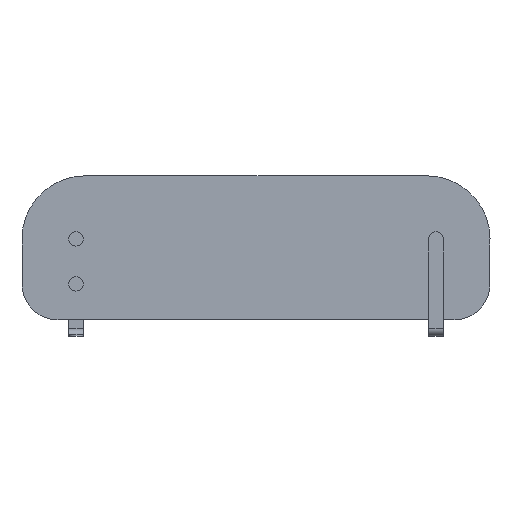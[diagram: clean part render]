
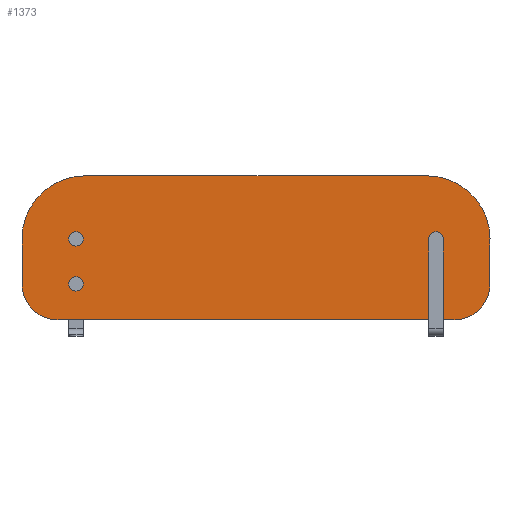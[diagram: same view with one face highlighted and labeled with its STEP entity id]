
A CAD part, top view. The second image highlights one B-rep face of the part: STEP entity #1373.
In plain terms, the highlighted planar face has unit normal (0, 0, 1).
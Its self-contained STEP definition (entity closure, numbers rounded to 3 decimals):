
#38 = ORIENTED_EDGE ( 'NONE', *, *, #4000, .T. ) ;
#95 = CARTESIAN_POINT ( 'NONE',  ( 49694.773, 54564.291, 18. ) ) ;
#157 = FACE_BOUND ( 'NONE', #3588, .T. ) ;
#164 = CARTESIAN_POINT ( 'NONE',  ( 48544.773, 0., 18. ) ) ;
#198 = CARTESIAN_POINT ( 'NONE',  ( 49684.023, 54564.291, 18. ) ) ;
#260 = VERTEX_POINT ( 'NONE', #4173 ) ;
#311 = CARTESIAN_POINT ( 'NONE',  ( 48694.773, 54564.291, 18. ) ) ;
#403 = CARTESIAN_POINT ( 'NONE',  ( 49705.523, 54564.291, 18. ) ) ;
#500 = CARTESIAN_POINT ( 'NONE',  ( 49844.773, 54564.291, 18. ) ) ;
#531 = EDGE_CURVE ( 'NONE', #2948, #3968, #1223, .T. ) ;
#554 = CIRCLE ( 'NONE', #1399, 11. ) ;
#564 = EDGE_CURVE ( 'NONE', #3968, #2948, #2939, .T. ) ;
#596 = VERTEX_POINT ( 'NONE', #2949 ) ;
#600 = DIRECTION ( 'NONE',  ( 0., 0., 1. ) ) ;
#719 = EDGE_CURVE ( 'NONE', #2923, #4114, #2624, .T. ) ;
#727 = DIRECTION ( 'NONE',  ( 1., 0., 0. ) ) ;
#730 = AXIS2_PLACEMENT_3D ( 'NONE', #3254, #4808, #1296 ) ;
#744 = DIRECTION ( 'NONE',  ( 1., 0., 0. ) ) ;
#746 = EDGE_CURVE ( 'NONE', #3094, #3432, #994, .T. ) ;
#750 = DIRECTION ( 'NONE',  ( 0., 0., 1. ) ) ;
#760 = ORIENTED_EDGE ( 'NONE', *, *, #2201, .F. ) ;
#837 = CARTESIAN_POINT ( 'NONE',  ( 49684.023, 54439.291, 18. ) ) ;
#876 = LINE ( 'NONE', #3996, #1403 ) ;
#889 = CARTESIAN_POINT ( 'NONE',  ( 49694.773, 54439.291, 18. ) ) ;
#906 = DIRECTION ( 'NONE',  ( 0., 0., 1. ) ) ;
#950 = FACE_BOUND ( 'NONE', #2319, .T. ) ;
#994 = LINE ( 'NONE', #2673, #2246 ) ;
#1007 = DIRECTION ( 'NONE',  ( 0., -1., 0. ) ) ;
#1022 = CARTESIAN_POINT ( 'NONE',  ( 49669.773, 54564.291, 18. ) ) ;
#1115 = CARTESIAN_POINT ( 'NONE',  ( 49744.773, 54439.291, 18. ) ) ;
#1120 = EDGE_CURVE ( 'NONE', #2541, #1765, #876, .T. ) ;
#1121 = ORIENTED_EDGE ( 'NONE', *, *, #746, .F. ) ;
#1172 = AXIS2_PLACEMENT_3D ( 'NONE', #1115, #2692, #4612 ) ;
#1181 = VERTEX_POINT ( 'NONE', #403 ) ;
#1195 = ORIENTED_EDGE ( 'NONE', *, *, #564, .F. ) ;
#1223 = CIRCLE ( 'NONE', #2456, 10.75 ) ;
#1247 = AXIS2_PLACEMENT_3D ( 'NONE', #4888, #3385, #2950 ) ;
#1274 = AXIS2_PLACEMENT_3D ( 'NONE', #1352, #2292, #3434 ) ;
#1277 = FACE_BOUND ( 'NONE', #4590, .T. ) ;
#1296 = DIRECTION ( 'NONE',  ( 1., 0., 0. ) ) ;
#1322 = ORIENTED_EDGE ( 'NONE', *, *, #3014, .F. ) ;
#1352 = CARTESIAN_POINT ( 'NONE',  ( 49694.773, 54564.291, 18. ) ) ;
#1373 = ADVANCED_FACE ( 'NONE', ( #950, #4459, #157, #1277, #2085 ), #2851, .T. ) ;
#1399 = AXIS2_PLACEMENT_3D ( 'NONE', #311, #600, #4895 ) ;
#1403 = VECTOR ( 'NONE', #4323, 1000. ) ;
#1471 = DIRECTION ( 'NONE',  ( 1., 0., 0. ) ) ;
#1501 = CIRCLE ( 'NONE', #4370, 10.75 ) ;
#1525 = AXIS2_PLACEMENT_3D ( 'NONE', #3424, #4552, #1471 ) ;
#1570 = EDGE_CURVE ( 'NONE', #4431, #2489, #3288, .T. ) ;
#1589 = VERTEX_POINT ( 'NONE', #4902 ) ;
#1653 = CIRCLE ( 'NONE', #4279, 100. ) ;
#1656 = AXIS2_PLACEMENT_3D ( 'NONE', #4839, #4791, #4411 ) ;
#1743 = DIRECTION ( 'NONE',  ( 0., 0., 1. ) ) ;
#1765 = VERTEX_POINT ( 'NONE', #4618 ) ;
#1802 = ORIENTED_EDGE ( 'NONE', *, *, #531, .F. ) ;
#1877 = CARTESIAN_POINT ( 'NONE',  ( 49705.523, 54439.291, 18. ) ) ;
#1881 = EDGE_CURVE ( 'NONE', #2185, #1589, #1501, .T. ) ;
#1916 = ORIENTED_EDGE ( 'NONE', *, *, #2239, .F. ) ;
#2054 = CARTESIAN_POINT ( 'NONE',  ( 49744.773, 54339.291, 18. ) ) ;
#2067 = VECTOR ( 'NONE', #3057, 1000. ) ;
#2085 = FACE_OUTER_BOUND ( 'NONE', #4860, .T. ) ;
#2185 = VERTEX_POINT ( 'NONE', #2255 ) ;
#2186 = DIRECTION ( 'NONE',  ( 0., -1., 0. ) ) ;
#2194 = CARTESIAN_POINT ( 'NONE',  ( 48644.773, 54339.291, 18. ) ) ;
#2201 = EDGE_CURVE ( 'NONE', #1589, #2185, #2844, .T. ) ;
#2239 = EDGE_CURVE ( 'NONE', #1181, #4717, #2361, .T. ) ;
#2246 = VECTOR ( 'NONE', #2186, 1000. ) ;
#2255 = CARTESIAN_POINT ( 'NONE',  ( 48684.023, 54439.291, 18. ) ) ;
#2292 = DIRECTION ( 'NONE',  ( 0., 0., 1. ) ) ;
#2319 = EDGE_LOOP ( 'NONE', ( #1802, #1195 ) ) ;
#2356 = EDGE_CURVE ( 'NONE', #260, #596, #554, .T. ) ;
#2361 = CIRCLE ( 'NONE', #1274, 10.75 ) ;
#2389 = CARTESIAN_POINT ( 'NONE',  ( 48719.773, 54739.291, 18. ) ) ;
#2448 = ORIENTED_EDGE ( 'NONE', *, *, #4549, .F. ) ;
#2456 = AXIS2_PLACEMENT_3D ( 'NONE', #889, #1743, #4452 ) ;
#2489 = VERTEX_POINT ( 'NONE', #2820 ) ;
#2541 = VERTEX_POINT ( 'NONE', #2389 ) ;
#2571 = ORIENTED_EDGE ( 'NONE', *, *, #4395, .T. ) ;
#2597 = DIRECTION ( 'NONE',  ( 0., 0., 1. ) ) ;
#2624 = LINE ( 'NONE', #3384, #2067 ) ;
#2660 = AXIS2_PLACEMENT_3D ( 'NONE', #95, #2839, #4777 ) ;
#2673 = CARTESIAN_POINT ( 'NONE',  ( 49844.773, 0., 18. ) ) ;
#2692 = DIRECTION ( 'NONE',  ( 0., 0., 1. ) ) ;
#2820 = CARTESIAN_POINT ( 'NONE',  ( 48544.773, 54439.291, 18. ) ) ;
#2839 = DIRECTION ( 'NONE',  ( 0., 0., 1. ) ) ;
#2844 = CIRCLE ( 'NONE', #1525, 10.75 ) ;
#2851 = PLANE ( 'NONE',  #1656 ) ;
#2923 = VERTEX_POINT ( 'NONE', #2194 ) ;
#2939 = CIRCLE ( 'NONE', #730, 10.75 ) ;
#2948 = VERTEX_POINT ( 'NONE', #837 ) ;
#2949 = CARTESIAN_POINT ( 'NONE',  ( 48683.773, 54564.291, 18. ) ) ;
#2950 = DIRECTION ( 'NONE',  ( 1., 0., 0. ) ) ;
#2954 = ORIENTED_EDGE ( 'NONE', *, *, #4020, .T. ) ;
#3014 = EDGE_CURVE ( 'NONE', #596, #260, #4513, .T. ) ;
#3037 = CARTESIAN_POINT ( 'NONE',  ( 48644.773, 54439.291, 18. ) ) ;
#3057 = DIRECTION ( 'NONE',  ( 1., 0., 0. ) ) ;
#3060 = ORIENTED_EDGE ( 'NONE', *, *, #3739, .T. ) ;
#3081 = CARTESIAN_POINT ( 'NONE',  ( 48694.773, 54439.291, 18. ) ) ;
#3094 = VERTEX_POINT ( 'NONE', #500 ) ;
#3199 = CARTESIAN_POINT ( 'NONE',  ( 48694.773, 54564.291, 18. ) ) ;
#3254 = CARTESIAN_POINT ( 'NONE',  ( 49694.773, 54439.291, 18. ) ) ;
#3272 = EDGE_LOOP ( 'NONE', ( #2448, #1916 ) ) ;
#3288 = LINE ( 'NONE', #164, #4426 ) ;
#3384 = CARTESIAN_POINT ( 'NONE',  ( 0., 54339.291, 18. ) ) ;
#3385 = DIRECTION ( 'NONE',  ( 0., 0., 1. ) ) ;
#3390 = CIRCLE ( 'NONE', #1172, 100. ) ;
#3424 = CARTESIAN_POINT ( 'NONE',  ( 48694.773, 54439.291, 18. ) ) ;
#3432 = VERTEX_POINT ( 'NONE', #3620 ) ;
#3434 = DIRECTION ( 'NONE',  ( 1., 0., 0. ) ) ;
#3588 = EDGE_LOOP ( 'NONE', ( #4537, #760 ) ) ;
#3620 = CARTESIAN_POINT ( 'NONE',  ( 49844.773, 54439.291, 18. ) ) ;
#3631 = CIRCLE ( 'NONE', #1247, 175. ) ;
#3664 = ORIENTED_EDGE ( 'NONE', *, *, #2356, .F. ) ;
#3726 = CIRCLE ( 'NONE', #2660, 10.75 ) ;
#3739 = EDGE_CURVE ( 'NONE', #2489, #2923, #1653, .T. ) ;
#3968 = VERTEX_POINT ( 'NONE', #1877 ) ;
#3996 = CARTESIAN_POINT ( 'NONE',  ( 0., 54739.291, 18. ) ) ;
#4000 = EDGE_CURVE ( 'NONE', #3094, #1765, #4531, .T. ) ;
#4005 = ORIENTED_EDGE ( 'NONE', *, *, #1120, .F. ) ;
#4020 = EDGE_CURVE ( 'NONE', #2541, #4431, #3631, .T. ) ;
#4052 = CARTESIAN_POINT ( 'NONE',  ( 48544.773, 54564.291, 18. ) ) ;
#4114 = VERTEX_POINT ( 'NONE', #2054 ) ;
#4173 = CARTESIAN_POINT ( 'NONE',  ( 48705.773, 54564.291, 18. ) ) ;
#4275 = AXIS2_PLACEMENT_3D ( 'NONE', #3199, #906, #4417 ) ;
#4279 = AXIS2_PLACEMENT_3D ( 'NONE', #3037, #750, #727 ) ;
#4323 = DIRECTION ( 'NONE',  ( 1., 0., 0. ) ) ;
#4370 = AXIS2_PLACEMENT_3D ( 'NONE', #3081, #4642, #744 ) ;
#4395 = EDGE_CURVE ( 'NONE', #4114, #3432, #3390, .T. ) ;
#4411 = DIRECTION ( 'NONE',  ( 1., 0., 0. ) ) ;
#4417 = DIRECTION ( 'NONE',  ( 1., 0., 0. ) ) ;
#4426 = VECTOR ( 'NONE', #1007, 1000. ) ;
#4431 = VERTEX_POINT ( 'NONE', #4052 ) ;
#4452 = DIRECTION ( 'NONE',  ( 1., 0., 0. ) ) ;
#4459 = FACE_BOUND ( 'NONE', #3272, .T. ) ;
#4477 = ORIENTED_EDGE ( 'NONE', *, *, #1570, .T. ) ;
#4513 = CIRCLE ( 'NONE', #4275, 11. ) ;
#4531 = CIRCLE ( 'NONE', #4774, 175. ) ;
#4537 = ORIENTED_EDGE ( 'NONE', *, *, #1881, .F. ) ;
#4549 = EDGE_CURVE ( 'NONE', #4717, #1181, #3726, .T. ) ;
#4552 = DIRECTION ( 'NONE',  ( 0., 0., 1. ) ) ;
#4590 = EDGE_LOOP ( 'NONE', ( #1322, #3664 ) ) ;
#4612 = DIRECTION ( 'NONE',  ( 1., 0., 0. ) ) ;
#4618 = CARTESIAN_POINT ( 'NONE',  ( 49669.773, 54739.291, 18. ) ) ;
#4642 = DIRECTION ( 'NONE',  ( 0., 0., 1. ) ) ;
#4717 = VERTEX_POINT ( 'NONE', #198 ) ;
#4774 = AXIS2_PLACEMENT_3D ( 'NONE', #1022, #2597, #4991 ) ;
#4777 = DIRECTION ( 'NONE',  ( 1., 0., 0. ) ) ;
#4791 = DIRECTION ( 'NONE',  ( 0., 0., 1. ) ) ;
#4808 = DIRECTION ( 'NONE',  ( 0., 0., 1. ) ) ;
#4839 = CARTESIAN_POINT ( 'NONE',  ( 0., 0., 18. ) ) ;
#4860 = EDGE_LOOP ( 'NONE', ( #4005, #2954, #4477, #3060, #4916, #2571, #1121, #38 ) ) ;
#4888 = CARTESIAN_POINT ( 'NONE',  ( 48719.773, 54564.291, 18. ) ) ;
#4895 = DIRECTION ( 'NONE',  ( 1., 0., 0. ) ) ;
#4902 = CARTESIAN_POINT ( 'NONE',  ( 48705.523, 54439.291, 18. ) ) ;
#4916 = ORIENTED_EDGE ( 'NONE', *, *, #719, .T. ) ;
#4991 = DIRECTION ( 'NONE',  ( 1., 0., 0. ) ) ;
